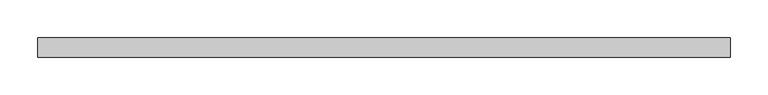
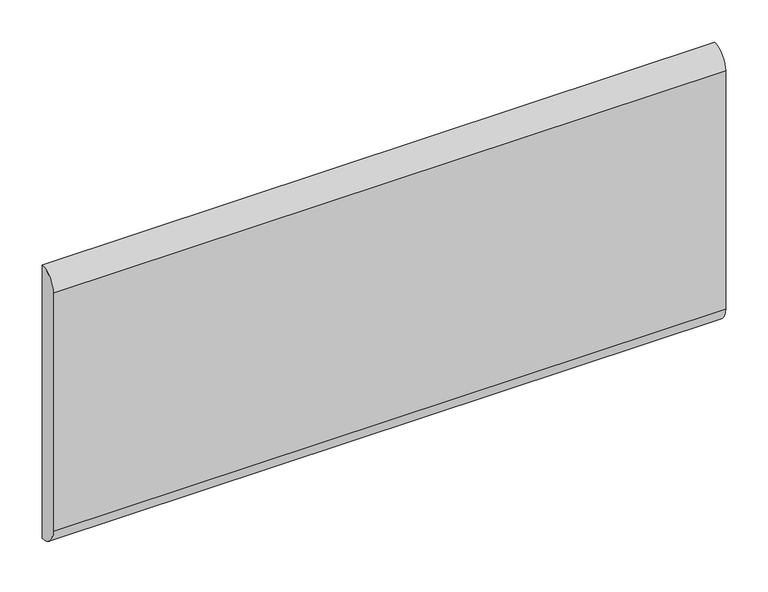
"""IFC4 building model written with IfcOpenShell, lengths in millimetres: furniture geometry."""

from ifc_helpers import new_model, si_unit, point, frame, frame_2d, origin, place, context, project, spatial, polyline, circle_curve, trimmed, segment, composite_curve, outline, extrude, source, transform, mapped, element, save


def furniture_2925ff6b(model_context):
    return source(origin(), model_context, "Body", "SweptSolid", [
        extrude(outline(composite_curve([segment(trimmed(circle_curve(frame_2d((12.7, 812.8)), 25.4), [point((12.7, 787.4))], [point((-12.7, 812.8))], False, "CARTESIAN"), True, "CONTINUOUS"), segment(polyline([(-12.7, 812.8), (-12.7, 1155.7)]), True, "CONTINUOUS"), segment(trimmed(circle_curve(frame_2d((12.7, 1155.7)), 25.4), [point((-12.7, 1155.7))], [point((12.7, 1181.1))], False, "CARTESIAN"), True, "CONTINUOUS"), segment(polyline([(12.7, 1181.1), (12.7, 787.4)]), True, "CONTINUOUS")], self_intersect=False)), frame((-457.2, 0.0, 0.0), z_axis=(1.0, 0.0, 0.0), x_axis=(0.0, 1.0, 0.0)), (0.0, 0.0, 1.0), 914.4),
    ])


if __name__ == "__main__":
    model = new_model("IFC4")
    model_context = context("Model", 3, world=origin())
    ifc_project = project(units=[si_unit("LENGTHUNIT", "METRE", prefix="MILLI")], contexts=[model_context])
    site = spatial("IfcSite", under=ifc_project)
    building = spatial("IfcBuilding", under=site)
    placement = place(None, origin())
    furniture_shape = furniture_2925ff6b(model_context)
    element("IfcFurniture", 1, ObjectType="HermanMiller_ActionOffice_A3410_B-StyleTackboard : 16\"H x 36\"W", at=placement, inside=building, context=model_context, shape_type="MappedRepresentation", body=[
        mapped(furniture_shape, transform((0.0, 0.0, 0.0), x_axis=(1.0, 0.0, 0.0), y_axis=(0.0, 1.0, 0.0), z_axis=(0.0, 0.0, 1.0))),
    ])
    save(model, "model.ifc")
